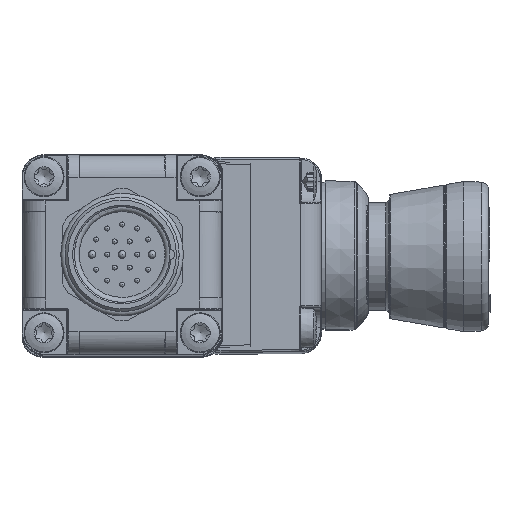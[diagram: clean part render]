
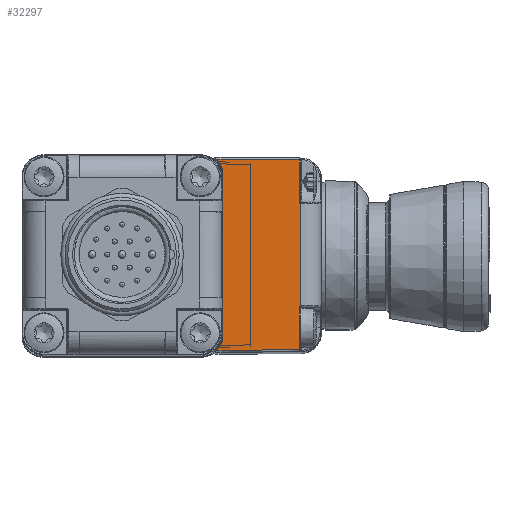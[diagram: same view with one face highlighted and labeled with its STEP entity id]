
A CAD part, top view. The second image highlights one B-rep face of the part: STEP entity #32297.
In plain terms, the highlighted planar face has unit normal (0.009, 0, 1).
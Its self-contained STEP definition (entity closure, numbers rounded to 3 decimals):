
#795=ELLIPSE('',#34952,4.,4.);
#796=ELLIPSE('',#34954,0.3,0.3);
#801=ELLIPSE('',#34985,0.3,0.3);
#802=ELLIPSE('',#34987,4.,4.);
#810=ELLIPSE('',#35038,0.39,0.39);
#812=ELLIPSE('',#35058,0.39,0.39);
#1871=PLANE('',#35057);
#2896=FACE_OUTER_BOUND('',#4963,.T.);
#4963=EDGE_LOOP('',(#24661,#24662,#24663,#24664,#24665,#24666,#24667,#24668,
#24669,#24670,#24671,#24672,#24673,#24674,#24675,#24676,#24677,#24678));
#8205=CIRCLE('',#34909,0.1);
#8208=CIRCLE('',#34913,0.1);
#10053=LINE('',#56791,#11819);
#10078=LINE('',#56930,#11844);
#10083=LINE('',#57019,#11849);
#10086=LINE('',#57174,#11852);
#10088=LINE('',#57232,#11854);
#10104=LINE('',#57423,#11870);
#10107=LINE('',#57511,#11873);
#10113=LINE('',#57603,#11879);
#10114=LINE('',#57607,#11880);
#10115=LINE('',#57609,#11881);
#11819=VECTOR('',#40602,10.);
#11844=VECTOR('',#40689,10.);
#11849=VECTOR('',#40710,10.);
#11852=VECTOR('',#40741,10.);
#11854=VECTOR('',#40769,10.);
#11870=VECTOR('',#40869,10.);
#11873=VECTOR('',#40894,10.);
#11879=VECTOR('',#40940,10.);
#11880=VECTOR('',#40943,10.);
#11881=VECTOR('',#40946,10.);
#14034=VERTEX_POINT('',#56746);
#14035=VERTEX_POINT('',#56748);
#14038=VERTEX_POINT('',#56779);
#14039=VERTEX_POINT('',#56781);
#14042=VERTEX_POINT('',#56788);
#14074=VERTEX_POINT('',#56927);
#14078=VERTEX_POINT('',#56960);
#14079=VERTEX_POINT('',#56961);
#14080=VERTEX_POINT('',#57015);
#14085=VERTEX_POINT('',#57142);
#14088=VERTEX_POINT('',#57231);
#14089=VERTEX_POINT('',#57254);
#14121=VERTEX_POINT('',#57420);
#14125=VERTEX_POINT('',#57510);
#14126=VERTEX_POINT('',#57539);
#14134=VERTEX_POINT('',#57597);
#14135=VERTEX_POINT('',#57605);
#14136=VERTEX_POINT('',#57606);
#17785=EDGE_CURVE('',#14034,#14035,#8205,.T.);
#17789=EDGE_CURVE('',#14038,#14039,#8208,.T.);
#17794=EDGE_CURVE('',#14039,#14042,#10053,.T.);
#17839=EDGE_CURVE('',#14074,#14034,#10078,.T.);
#17845=EDGE_CURVE('',#14078,#14079,#795,.T.);
#17848=EDGE_CURVE('',#14079,#14080,#796,.T.);
#17850=EDGE_CURVE('',#14080,#14074,#10083,.T.);
#17864=EDGE_CURVE('',#14085,#14078,#10086,.T.);
#17874=EDGE_CURVE('',#14042,#14088,#10088,.T.);
#17876=EDGE_CURVE('',#14088,#14089,#801,.T.);
#17878=EDGE_CURVE('',#14089,#14085,#802,.T.);
#17928=EDGE_CURVE('',#14035,#14121,#10104,.T.);
#17939=EDGE_CURVE('',#14121,#14125,#10107,.T.);
#17942=EDGE_CURVE('',#14125,#14126,#810,.T.);
#17960=EDGE_CURVE('',#14134,#14126,#10113,.F.);
#17961=EDGE_CURVE('',#14135,#14136,#10114,.T.);
#17962=EDGE_CURVE('',#14134,#14135,#812,.T.);
#17963=EDGE_CURVE('',#14136,#14038,#10115,.T.);
#24661=ORIENTED_EDGE('',*,*,#17961,.F.);
#24662=ORIENTED_EDGE('',*,*,#17962,.F.);
#24663=ORIENTED_EDGE('',*,*,#17960,.T.);
#24664=ORIENTED_EDGE('',*,*,#17942,.F.);
#24665=ORIENTED_EDGE('',*,*,#17939,.F.);
#24666=ORIENTED_EDGE('',*,*,#17928,.F.);
#24667=ORIENTED_EDGE('',*,*,#17785,.F.);
#24668=ORIENTED_EDGE('',*,*,#17839,.F.);
#24669=ORIENTED_EDGE('',*,*,#17850,.F.);
#24670=ORIENTED_EDGE('',*,*,#17848,.F.);
#24671=ORIENTED_EDGE('',*,*,#17845,.F.);
#24672=ORIENTED_EDGE('',*,*,#17864,.F.);
#24673=ORIENTED_EDGE('',*,*,#17878,.F.);
#24674=ORIENTED_EDGE('',*,*,#17876,.F.);
#24675=ORIENTED_EDGE('',*,*,#17874,.F.);
#24676=ORIENTED_EDGE('',*,*,#17794,.F.);
#24677=ORIENTED_EDGE('',*,*,#17789,.F.);
#24678=ORIENTED_EDGE('',*,*,#17963,.F.);
#32297=ADVANCED_FACE('',(#2896),#1871,.T.);
#34909=AXIS2_PLACEMENT_3D('',#56749,#40583,#40584);
#34913=AXIS2_PLACEMENT_3D('',#56782,#40591,#40592);
#34952=AXIS2_PLACEMENT_3D('',#56962,#40700,#40701);
#34954=AXIS2_PLACEMENT_3D('',#57016,#40704,#40705);
#34985=AXIS2_PLACEMENT_3D('',#57255,#40772,#40773);
#34987=AXIS2_PLACEMENT_3D('',#57277,#40776,#40777);
#35038=AXIS2_PLACEMENT_3D('',#57540,#40898,#40899);
#35057=AXIS2_PLACEMENT_3D('',#57604,#40941,#40942);
#35058=AXIS2_PLACEMENT_3D('',#57608,#40944,#40945);
#40583=DIRECTION('center_axis',(-0.009,0.,
-1.));
#40584=DIRECTION('ref_axis',(-1.,0.,0.009));
#40591=DIRECTION('center_axis',(-0.009,0.,
-1.));
#40592=DIRECTION('ref_axis',(-1.,0.,0.009));
#40602=DIRECTION('',(0.,1.,0.));
#40689=DIRECTION('',(0.,1.,0.));
#40700=DIRECTION('center_axis',(0.009,0.,
1.));
#40701=DIRECTION('ref_axis',(1.,0.,-0.009));
#40704=DIRECTION('center_axis',(0.009,0.,
1.));
#40705=DIRECTION('ref_axis',(1.,0.,-0.009));
#40710=DIRECTION('',(-1.,0.,0.009));
#40741=DIRECTION('',(0.,1.,0.));
#40769=DIRECTION('',(1.,0.,-0.009));
#40772=DIRECTION('center_axis',(0.009,0.,
1.));
#40773=DIRECTION('ref_axis',(1.,0.,-0.009));
#40776=DIRECTION('center_axis',(0.009,0.,
1.));
#40777=DIRECTION('ref_axis',(1.,0.,-0.009));
#40869=DIRECTION('',(1.,-0.009,-0.009));
#40894=DIRECTION('',(0.,-1.,0.));
#40898=DIRECTION('center_axis',(0.009,0.,
1.));
#40899=DIRECTION('ref_axis',(-1.,0.,0.009));
#40940=DIRECTION('',(0.,-1.,0.));
#40941=DIRECTION('center_axis',(0.009,0.,
1.));
#40942=DIRECTION('ref_axis',(0.,-1.,0.));
#40943=DIRECTION('',(0.,-1.,0.));
#40944=DIRECTION('center_axis',(0.009,0.,
1.));
#40945=DIRECTION('ref_axis',(-1.,0.,0.009));
#40946=DIRECTION('',(-1.,-0.009,0.009));
#56746=CARTESIAN_POINT('',(18.653,18.996,238.926));
#56748=CARTESIAN_POINT('',(18.754,19.096,238.925));
#56749=CARTESIAN_POINT('Origin',(18.753,18.996,238.925));
#56779=CARTESIAN_POINT('',(18.754,-19.096,238.925));
#56781=CARTESIAN_POINT('',(18.653,-18.996,238.926));
#56782=CARTESIAN_POINT('Origin',(18.753,-18.996,238.925));
#56788=CARTESIAN_POINT('',(18.653,-18.9,238.926));
#56791=CARTESIAN_POINT('',(18.653,0.35,238.926));
#56927=CARTESIAN_POINT('',(18.653,18.9,238.926));
#56930=CARTESIAN_POINT('',(18.653,19.5,238.926));
#56960=CARTESIAN_POINT('',(20.051,17.085,238.913));
#56961=CARTESIAN_POINT('',(19.047,18.811,238.922));
#56962=CARTESIAN_POINT('Origin',(16.201,16.,238.947));
#57015=CARTESIAN_POINT('',(18.833,18.9,238.924));
#57016=CARTESIAN_POINT('Origin',(18.833,18.6,238.924));
#57019=CARTESIAN_POINT('',(22.491,18.9,238.892));
#57142=CARTESIAN_POINT('',(20.051,-17.085,238.913));
#57174=CARTESIAN_POINT('',(20.051,18.286,238.913));
#57231=CARTESIAN_POINT('',(18.833,-18.9,238.924));
#57232=CARTESIAN_POINT('',(22.823,-18.9,238.889));
#57254=CARTESIAN_POINT('',(19.047,-18.811,238.922));
#57255=CARTESIAN_POINT('Origin',(18.833,-18.6,238.924));
#57277=CARTESIAN_POINT('Origin',(16.201,-16.,238.947));
#57420=CARTESIAN_POINT('',(35.413,18.95,238.779));
#57423=CARTESIAN_POINT('',(26.727,19.026,238.855));
#57510=CARTESIAN_POINT('',(35.413,10.6,238.779));
#57511=CARTESIAN_POINT('',(35.413,17.05,238.779));
#57539=CARTESIAN_POINT('',(35.736,10.216,238.776));
#57540=CARTESIAN_POINT('Origin',(35.803,10.6,238.776));
#57597=CARTESIAN_POINT('',(35.736,-10.216,238.776));
#57603=CARTESIAN_POINT('',(35.736,9.75,238.776));
#57604=CARTESIAN_POINT('Origin',(25.75,19.5,238.864));
#57605=CARTESIAN_POINT('',(35.413,-10.6,238.779));
#57606=CARTESIAN_POINT('',(35.413,-18.95,238.779));
#57607=CARTESIAN_POINT('',(35.413,2.45,238.779));
#57608=CARTESIAN_POINT('Origin',(35.803,-10.6,238.776));
#57609=CARTESIAN_POINT('',(25.916,-19.033,238.862));
